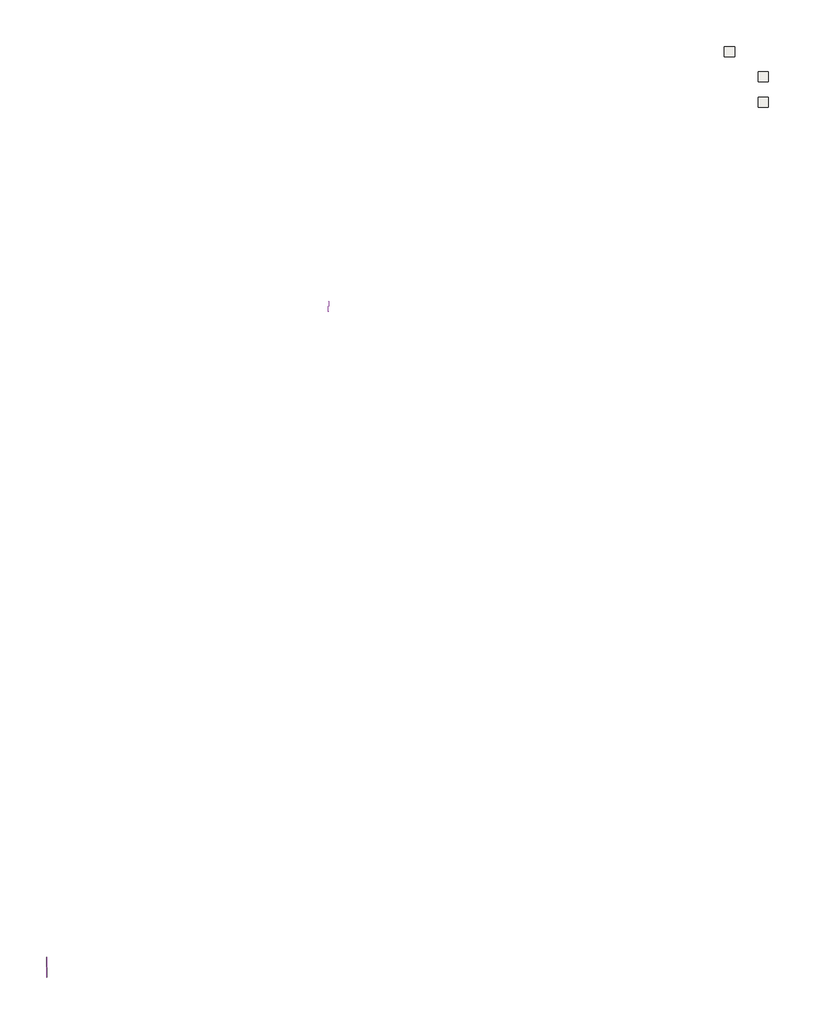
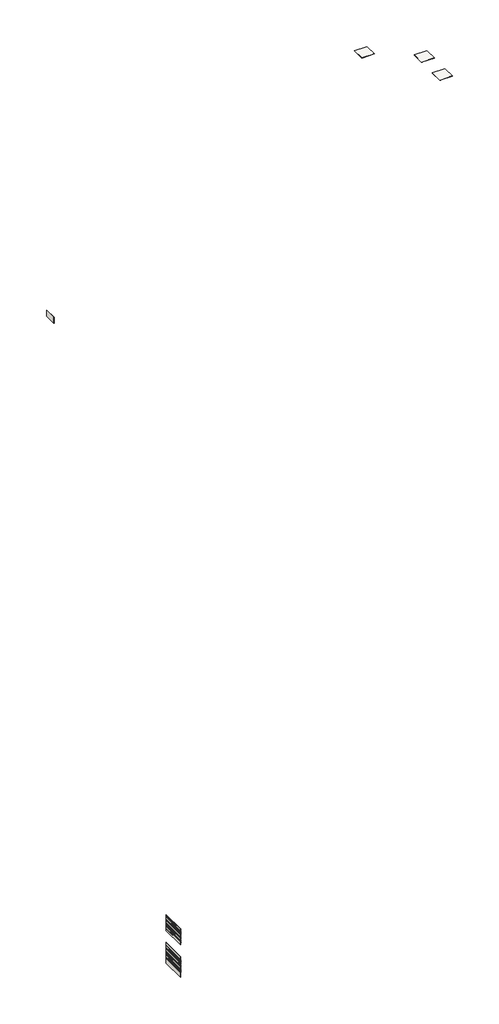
# One storey: 23 proxies, 3 slabs, 3 walls.
"""IFC4 building model written with IfcOpenShell, lengths in millimetres."""

from ifc_helpers import new_model, si_unit, frame, origin, place, context, project, spatial, polyline, outline, extrude, element, save

model = new_model("IFC4")

# Units and contexts
model_context = context("Model", 3, world=origin())
ifc_project = project(units=[si_unit("LENGTHUNIT", "METRE", prefix="MILLI")], contexts=[model_context])

# Site, building, storey
site = spatial("IfcSite", under=ifc_project)
building = spatial("IfcBuilding", under=site)
storey = spatial("IfcBuildingStorey", under=building, Name="apariencia MOSAICO", Elevation=15000.0)

# Proxies
placement = place(None, origin())
element("IfcBuildingElementProxy", 1, Name="Cesantoni_Cascata_30x6_Mist_Mate", ObjectType="Cesantoni_Cascata_30x6_Mist_Mate", at=placement, inside=storey, context=model_context, shape_type="SweptSolid", body=[
    extrude(outline(polyline([(18064.1233813, -41360.6781102), (18094.1233813, -41379.6781102), (18081.9750312, -41379.6781102), (18064.1233813, -41368.3720653), (18046.2717314, -41379.6781102), (18034.1233813, -41379.6781102), (18064.1233813, -41360.6781102)])), frame((0.0, -54356.7282789, 0.0), z_axis=(0.0, 1.0, 0.0), x_axis=(0.0, 0.0, 1.0)), (0.0, 0.0, 1.0), 1200.0),
])
element("IfcBuildingElementProxy", 2, Name="Cesantoni_Cascata_30x6_Mist_Mate", ObjectType="Cesantoni_Cascata_30x6_Mist_Mate", at=placement, inside=storey, context=model_context, shape_type="SweptSolid", body=[
    extrude(outline(polyline([(18004.1233813, -41360.6781102), (18034.1233813, -41379.6781102), (18021.9750312, -41379.6781102), (18004.1233813, -41368.3720653), (17986.2717314, -41379.6781102), (17974.1233813, -41379.6781102), (18004.1233813, -41360.6781102)])), frame((0.0, -54356.7282789, 0.0), z_axis=(0.0, 1.0, 0.0), x_axis=(0.0, 0.0, 1.0)), (0.0, 0.0, 1.0), 1200.0),
])
element("IfcBuildingElementProxy", 3, Name="Cesantoni_Cascata_30x6_Mist_Mate", ObjectType="Cesantoni_Cascata_30x6_Mist_Mate", at=placement, inside=storey, context=model_context, shape_type="SweptSolid", body=[
    extrude(outline(polyline([(17884.1233813, -41360.6781102), (17914.1233813, -41379.6781102), (17901.9750312, -41379.6781102), (17884.1233813, -41368.3720653), (17866.2717314, -41379.6781102), (17854.1233813, -41379.6781102), (17884.1233813, -41360.6781102)])), frame((0.0, -54356.7282789, 0.0), z_axis=(0.0, 1.0, 0.0), x_axis=(0.0, 0.0, 1.0)), (0.0, 0.0, 1.0), 1200.0),
])
element("IfcBuildingElementProxy", 4, Name="Cesantoni_Cascata_30x6_Mist_Mate", ObjectType="Cesantoni_Cascata_30x6_Mist_Mate", at=placement, inside=storey, context=model_context, shape_type="SweptSolid", body=[
    extrude(outline(polyline([(17944.1233813, -41360.6781102), (17974.1233813, -41379.6781102), (17961.9750312, -41379.6781102), (17944.1233813, -41368.3720653), (17926.2717314, -41379.6781102), (17914.1233813, -41379.6781102), (17944.1233813, -41360.6781102)])), frame((0.0, -54356.7282789, 0.0), z_axis=(0.0, 1.0, 0.0), x_axis=(0.0, 0.0, 1.0)), (0.0, 0.0, 1.0), 1200.0),
])
element("IfcBuildingElementProxy", 5, Name="Cesantoni_Cascata_30x6_Mist_Mate", ObjectType="Cesantoni_Cascata_30x6_Mist_Mate", at=placement, inside=storey, context=model_context, shape_type="SweptSolid", body=[
    extrude(outline(polyline([(17644.1233813, -41360.6781102), (17674.1233813, -41379.6781102), (17661.9750312, -41379.6781102), (17644.1233813, -41368.3720653), (17626.2717314, -41379.6781102), (17614.1233813, -41379.6781102), (17644.1233813, -41360.6781102)])), frame((0.0, -54356.7282789, 0.0), z_axis=(0.0, 1.0, 0.0), x_axis=(0.0, 0.0, 1.0)), (0.0, 0.0, 1.0), 1200.0),
])
element("IfcBuildingElementProxy", 6, Name="Cesantoni_Cascata_30x6_Mist_Mate", ObjectType="Cesantoni_Cascata_30x6_Mist_Mate", at=placement, inside=storey, context=model_context, shape_type="SweptSolid", body=[
    extrude(outline(polyline([(17704.1233813, -41360.6781102), (17734.1233813, -41379.6781102), (17721.9750312, -41379.6781102), (17704.1233813, -41368.3720653), (17686.2717314, -41379.6781102), (17674.1233813, -41379.6781102), (17704.1233813, -41360.6781102)])), frame((0.0, -54356.7282789, 0.0), z_axis=(0.0, 1.0, 0.0), x_axis=(0.0, 0.0, 1.0)), (0.0, 0.0, 1.0), 1200.0),
])
element("IfcBuildingElementProxy", 7, Name="Cesantoni_Cascata_30x6_Mist_Mate", ObjectType="Cesantoni_Cascata_30x6_Mist_Mate", at=placement, inside=storey, context=model_context, shape_type="SweptSolid", body=[
    extrude(outline(polyline([(17824.1233813, -41360.6781102), (17854.1233813, -41379.6781102), (17841.9750312, -41379.6781102), (17824.1233813, -41368.3720653), (17806.2717314, -41379.6781102), (17794.1233813, -41379.6781102), (17824.1233813, -41360.6781102)])), frame((0.0, -54356.7282789, 0.0), z_axis=(0.0, 1.0, 0.0), x_axis=(0.0, 0.0, 1.0)), (0.0, 0.0, 1.0), 1200.0),
])
element("IfcBuildingElementProxy", 8, Name="Cesantoni_Cascata_30x6_Mist_Mate", ObjectType="Cesantoni_Cascata_30x6_Mist_Mate", at=placement, inside=storey, context=model_context, shape_type="SweptSolid", body=[
    extrude(outline(polyline([(17764.1233813, -41360.6781102), (17794.1233813, -41379.6781102), (17781.9750312, -41379.6781102), (17764.1233813, -41368.3720653), (17746.2717314, -41379.6781102), (17734.1233813, -41379.6781102), (17764.1233813, -41360.6781102)])), frame((0.0, -54356.7282789, 0.0), z_axis=(0.0, 1.0, 0.0), x_axis=(0.0, 0.0, 1.0)), (0.0, 0.0, 1.0), 1200.0),
])
element("IfcBuildingElementProxy", 9, Name="Cesantoni_Cascata_30x6_Mist_Mate", ObjectType="Cesantoni_Cascata_30x6_Mist_Mate", at=placement, inside=storey, context=model_context, shape_type="SweptSolid", body=[
    extrude(outline(polyline([(17584.1233813, -41360.6781102), (17614.1233813, -41379.6781102), (17601.9750312, -41379.6781102), (17584.1233813, -41368.3720653), (17566.2717314, -41379.6781102), (17554.1233813, -41379.6781102), (17584.1233813, -41360.6781102)])), frame((0.0, -54356.7282789, 0.0), z_axis=(0.0, 1.0, 0.0), x_axis=(0.0, 0.0, 1.0)), (0.0, 0.0, 1.0), 1200.0),
])
element("IfcBuildingElementProxy", 10, Name="Cesantoni_Cascata_30x6_Mist_Mate", ObjectType="Cesantoni_Cascata_30x6_Mist_Mate", at=placement, inside=storey, context=model_context, shape_type="SweptSolid", body=[
    extrude(outline(polyline([(17524.1233813, -41360.6781102), (17554.1233813, -41379.6781102), (17541.9750312, -41379.6781102), (17524.1233813, -41368.3720653), (17506.2717314, -41379.6781102), (17494.1233813, -41379.6781102), (17524.1233813, -41360.6781102)])), frame((0.0, -54356.7282789, 0.0), z_axis=(0.0, 1.0, 0.0), x_axis=(0.0, 0.0, 1.0)), (0.0, 0.0, 1.0), 1200.0),
])
element("IfcBuildingElementProxy", 11, Name="Cesantoni_Cascata_30x6_Mist_Mate", ObjectType="Cesantoni_Cascata_30x6_Mist_Mate", at=placement, inside=storey, context=model_context, shape_type="SweptSolid", body=[
    extrude(outline(polyline([(17404.1233813, -41360.6781102), (17434.1233813, -41379.6781102), (17421.9750312, -41379.6781102), (17404.1233813, -41368.3720653), (17386.2717314, -41379.6781102), (17374.1233813, -41379.6781102), (17404.1233813, -41360.6781102)])), frame((0.0, -54356.7282789, 0.0), z_axis=(0.0, 1.0, 0.0), x_axis=(0.0, 0.0, 1.0)), (0.0, 0.0, 1.0), 1200.0),
])
element("IfcBuildingElementProxy", 12, Name="Cesantoni_Cascata_30x6_Mist_Mate", ObjectType="Cesantoni_Cascata_30x6_Mist_Mate", at=placement, inside=storey, context=model_context, shape_type="SweptSolid", body=[
    extrude(outline(polyline([(17464.1233813, -41360.6781102), (17494.1233813, -41379.6781102), (17481.9750312, -41379.6781102), (17464.1233813, -41368.3720653), (17446.2717314, -41379.6781102), (17434.1233813, -41379.6781102), (17464.1233813, -41360.6781102)])), frame((0.0, -54356.7282789, 0.0), z_axis=(0.0, 1.0, 0.0), x_axis=(0.0, 0.0, 1.0)), (0.0, 0.0, 1.0), 1200.0),
])
element("IfcBuildingElementProxy", 13, Name="Cesantoni_Cascata_30x6_Snow_Mate", ObjectType="Cesantoni_Cascata_30x6_Snow_Mate", at=placement, inside=storey, context=model_context, shape_type="SweptSolid", body=[
    extrude(outline(polyline([(16504.1233813, -41360.6781102), (16534.1233813, -41379.6781102), (16521.9750312, -41379.6781102), (16504.1233813, -41368.3720653), (16486.2717314, -41379.6781102), (16474.1233813, -41379.6781102), (16504.1233813, -41360.6781102)])), frame((0.0, -54356.7282789, 0.0), z_axis=(0.0, 1.0, 0.0), x_axis=(0.0, 0.0, 1.0)), (0.0, 0.0, 1.0), 1200.0),
])
element("IfcBuildingElementProxy", 14, Name="Cesantoni_Cascata_30x6_Snow_Mate", ObjectType="Cesantoni_Cascata_30x6_Snow_Mate", at=placement, inside=storey, context=model_context, shape_type="SweptSolid", body=[
    extrude(outline(polyline([(16384.1233813, -41360.6781102), (16414.1233813, -41379.6781102), (16401.9750312, -41379.6781102), (16384.1233813, -41368.3720653), (16366.2717314, -41379.6781102), (16354.1233813, -41379.6781102), (16384.1233813, -41360.6781102)])), frame((0.0, -54356.7282789, 0.0), z_axis=(0.0, 1.0, 0.0), x_axis=(0.0, 0.0, 1.0)), (0.0, 0.0, 1.0), 1200.0),
])
element("IfcBuildingElementProxy", 15, Name="Cesantoni_Cascata_30x6_Snow_Mate", ObjectType="Cesantoni_Cascata_30x6_Snow_Mate", at=placement, inside=storey, context=model_context, shape_type="SweptSolid", body=[
    extrude(outline(polyline([(16444.1233813, -41360.6781102), (16474.1233813, -41379.6781102), (16461.9750312, -41379.6781102), (16444.1233813, -41368.3720653), (16426.2717314, -41379.6781102), (16414.1233813, -41379.6781102), (16444.1233813, -41360.6781102)])), frame((0.0, -54356.7282789, 0.0), z_axis=(0.0, 1.0, 0.0), x_axis=(0.0, 0.0, 1.0)), (0.0, 0.0, 1.0), 1200.0),
])
element("IfcBuildingElementProxy", 16, Name="Cesantoni_Cascata_30x6_Snow_Mate", ObjectType="Cesantoni_Cascata_30x6_Snow_Mate", at=placement, inside=storey, context=model_context, shape_type="SweptSolid", body=[
    extrude(outline(polyline([(16144.1233813, -41360.6781102), (16174.1233813, -41379.6781102), (16161.9750312, -41379.6781102), (16144.1233813, -41368.3720653), (16126.2717314, -41379.6781102), (16114.1233813, -41379.6781102), (16144.1233813, -41360.6781102)])), frame((0.0, -54356.7282789, 0.0), z_axis=(0.0, 1.0, 0.0), x_axis=(0.0, 0.0, 1.0)), (0.0, 0.0, 1.0), 1200.0),
])
element("IfcBuildingElementProxy", 17, Name="Cesantoni_Cascata_30x6_Snow_Mate", ObjectType="Cesantoni_Cascata_30x6_Snow_Mate", at=placement, inside=storey, context=model_context, shape_type="SweptSolid", body=[
    extrude(outline(polyline([(16204.1233813, -41360.6781102), (16234.1233813, -41379.6781102), (16221.9750312, -41379.6781102), (16204.1233813, -41368.3720653), (16186.2717314, -41379.6781102), (16174.1233813, -41379.6781102), (16204.1233813, -41360.6781102)])), frame((0.0, -54356.7282789, 0.0), z_axis=(0.0, 1.0, 0.0), x_axis=(0.0, 0.0, 1.0)), (0.0, 0.0, 1.0), 1200.0),
])
element("IfcBuildingElementProxy", 18, Name="Cesantoni_Cascata_30x6_Snow_Mate", ObjectType="Cesantoni_Cascata_30x6_Snow_Mate", at=placement, inside=storey, context=model_context, shape_type="SweptSolid", body=[
    extrude(outline(polyline([(16324.1233813, -41360.6781102), (16354.1233813, -41379.6781102), (16341.9750312, -41379.6781102), (16324.1233813, -41368.3720653), (16306.2717314, -41379.6781102), (16294.1233813, -41379.6781102), (16324.1233813, -41360.6781102)])), frame((0.0, -54356.7282789, 0.0), z_axis=(0.0, 1.0, 0.0), x_axis=(0.0, 0.0, 1.0)), (0.0, 0.0, 1.0), 1200.0),
])
element("IfcBuildingElementProxy", 19, Name="Cesantoni_Cascata_30x6_Snow_Mate", ObjectType="Cesantoni_Cascata_30x6_Snow_Mate", at=placement, inside=storey, context=model_context, shape_type="SweptSolid", body=[
    extrude(outline(polyline([(16264.1233813, -41360.6781102), (16294.1233813, -41379.6781102), (16281.9750312, -41379.6781102), (16264.1233813, -41368.3720653), (16246.2717314, -41379.6781102), (16234.1233813, -41379.6781102), (16264.1233813, -41360.6781102)])), frame((0.0, -54356.7282789, 0.0), z_axis=(0.0, 1.0, 0.0), x_axis=(0.0, 0.0, 1.0)), (0.0, 0.0, 1.0), 1200.0),
])
element("IfcBuildingElementProxy", 20, Name="Cesantoni_Cascata_30x6_Snow_Mate", ObjectType="Cesantoni_Cascata_30x6_Snow_Mate", at=placement, inside=storey, context=model_context, shape_type="SweptSolid", body=[
    extrude(outline(polyline([(16084.1233813, -41360.6781102), (16114.1233813, -41379.6781102), (16101.9750312, -41379.6781102), (16084.1233813, -41368.3720653), (16066.2717314, -41379.6781102), (16054.1233813, -41379.6781102), (16084.1233813, -41360.6781102)])), frame((0.0, -54356.7282789, 0.0), z_axis=(0.0, 1.0, 0.0), x_axis=(0.0, 0.0, 1.0)), (0.0, 0.0, 1.0), 1200.0),
])
element("IfcBuildingElementProxy", 21, Name="Cesantoni_Cascata_30x6_Snow_Mate", ObjectType="Cesantoni_Cascata_30x6_Snow_Mate", at=placement, inside=storey, context=model_context, shape_type="SweptSolid", body=[
    extrude(outline(polyline([(16024.1233813, -41360.6781102), (16054.1233813, -41379.6781102), (16041.9750312, -41379.6781102), (16024.1233813, -41368.3720653), (16006.2717314, -41379.6781102), (15994.1233813, -41379.6781102), (16024.1233813, -41360.6781102)])), frame((0.0, -54356.7282789, 0.0), z_axis=(0.0, 1.0, 0.0), x_axis=(0.0, 0.0, 1.0)), (0.0, 0.0, 1.0), 1200.0),
])
element("IfcBuildingElementProxy", 22, Name="Cesantoni_Cascata_30x6_Snow_Mate", ObjectType="Cesantoni_Cascata_30x6_Snow_Mate", at=placement, inside=storey, context=model_context, shape_type="SweptSolid", body=[
    extrude(outline(polyline([(15904.1233813, -41360.6781102), (15934.1233813, -41379.6781102), (15921.9750312, -41379.6781102), (15904.1233813, -41368.3720653), (15886.2717314, -41379.6781102), (15874.1233813, -41379.6781102), (15904.1233813, -41360.6781102)])), frame((0.0, -54356.7282789, 0.0), z_axis=(0.0, 1.0, 0.0), x_axis=(0.0, 0.0, 1.0)), (0.0, 0.0, 1.0), 1200.0),
])
element("IfcBuildingElementProxy", 23, Name="Cesantoni_Cascata_30x6_Snow_Mate", ObjectType="Cesantoni_Cascata_30x6_Snow_Mate", at=placement, inside=storey, context=model_context, shape_type="SweptSolid", body=[
    extrude(outline(polyline([(15964.1233813, -41360.6781102), (15994.1233813, -41379.6781102), (15981.9750312, -41379.6781102), (15964.1233813, -41368.3720653), (15946.2717314, -41379.6781102), (15934.1233813, -41379.6781102), (15964.1233813, -41360.6781102)])), frame((0.0, -54356.7282789, 0.0), z_axis=(0.0, 1.0, 0.0), x_axis=(0.0, 0.0, 1.0)), (0.0, 0.0, 1.0), 1200.0),
])

# Slabs
element("IfcSlab", 24, ObjectType="Cesantoni_Porto_Alegre_19.8x19.8_Porto_Alegre_Mate", at=placement, inside=storey, context=model_context, shape_type="SweptSolid", body=[
    extrude(outline(polyline([(-630.1781102, 784.4826442), (-630.1781102, 184.4826442), (-1230.1781102, 184.4826442), (-1230.1781102, 784.4826442), (-630.1781102, 784.4826442)])), frame((0.0, 0.0, 14989.0), z_axis=(0.0, 0.0, 1.0), x_axis=(1.0, 0.0, 0.0)), (0.0, 0.0, 1.0), 11.0),
])
element("IfcSlab", 25, ObjectType="Cesantoni_Porto_Santo_17.8x17.8_RECT_Beige_Mate", at=placement, inside=storey, context=model_context, shape_type="SweptSolid", body=[
    extrude(outline(polyline([(1369.8218898, -715.5173558), (1369.8218898, -1315.5173558), (769.8218898, -1315.5173558), (769.8218898, -715.5173558), (1369.8218898, -715.5173558)])), frame((0.0, 0.0, 14991.0), z_axis=(0.0, 0.0, 1.0), x_axis=(1.0, 0.0, 0.0)), (0.0, 0.0, 1.0), 9.0),
])
element("IfcSlab", 26, ObjectType="Cesantoni_Porto_Santo_17.8x17.8_RECT_Gris_Mate", at=placement, inside=storey, context=model_context, shape_type="SweptSolid", body=[
    extrude(outline(polyline([(1369.8218898, -2215.5173558), (1369.8218898, -2815.5173558), (769.8218898, -2815.5173558), (769.8218898, -2215.5173558), (1369.8218898, -2215.5173558)])), frame((0.0, 0.0, 14991.0), z_axis=(0.0, 0.0, 1.0), x_axis=(1.0, 0.0, 0.0)), (0.0, 0.0, 1.0), 9.0),
])

# Walls
element("IfcWall", 27, ObjectType="Cesantoni_Burconi_30x60_RECT_Burconi_Mate", at=placement, inside=storey, context=model_context, shape_type="SweptSolid", body=[
    extrude(outline(polyline([(-24674.55447, -14310.0172176), (-24674.55447, -14912.0172176), (-24684.55447, -14912.0172176), (-24684.55447, -14310.0172176), (-24674.55447, -14310.0172176)])), frame((0.0, 0.0, 18948.0), z_axis=(0.0, 0.0, 1.0), x_axis=(1.0, 0.0, 0.0)), (0.0, 0.0, 1.0), 302.0),
])
element("IfcWall", 28, ObjectType="Muro básico:muro", at=placement, inside=storey, context=model_context, shape_type="SweptSolid", body=[
    extrude(outline(polyline([(-41379.6781102, -53156.7282789), (-41379.6781102, -54356.7282789), (-41380.6781102, -54356.7282789), (-41380.6781102, -53156.7282789), (-41379.6781102, -53156.7282789)])), frame((0.0, 0.0, 17289.1233813), z_axis=(0.0, 0.0, 1.0), x_axis=(1.0, 0.0, 0.0)), (0.0, 0.0, 1.0), 805.0),
])
element("IfcWall", 29, ObjectType="Muro básico:muro", at=placement, inside=storey, context=model_context, shape_type="SweptSolid", body=[
    extrude(outline(polyline([(-41379.6781102, -53156.7282789), (-41379.6781102, -54356.7282789), (-41380.6781102, -54356.7282789), (-41380.6781102, -53156.7282789), (-41379.6781102, -53156.7282789)])), frame((0.0, 0.0, 15643.7209032), z_axis=(0.0, 0.0, 1.0), x_axis=(1.0, 0.0, 0.0)), (0.0, 0.0, 1.0), 1050.4024782),
])

save(model, "model.ifc")
